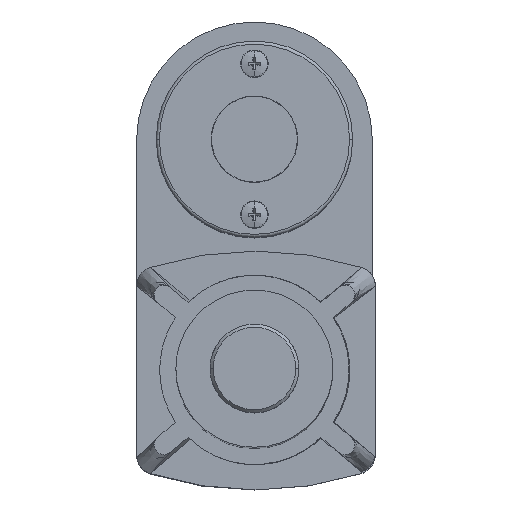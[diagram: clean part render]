
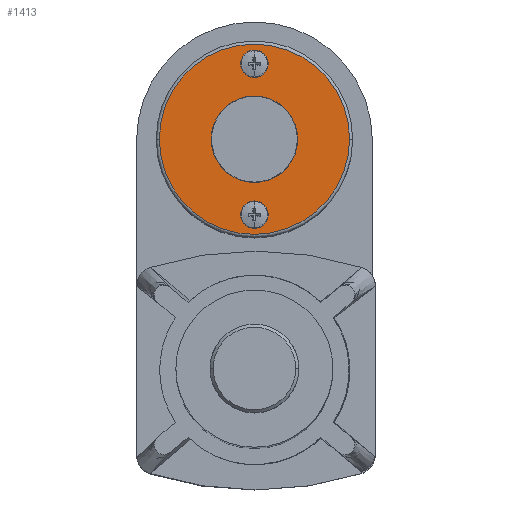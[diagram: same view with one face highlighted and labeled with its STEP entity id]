
A CAD part, top view. The second image highlights one B-rep face of the part: STEP entity #1413.
In plain terms, the highlighted planar face has unit normal (0, 0, 1).
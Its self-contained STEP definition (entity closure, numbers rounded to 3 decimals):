
#196 = DIRECTION ( 'NONE',  ( -1., 0., 0. ) ) ;
#280 = EDGE_CURVE ( 'NONE', #10394, #9945, #975, .T. ) ;
#298 = PLANE ( 'NONE',  #10204 ) ;
#565 = CARTESIAN_POINT ( 'NONE',  ( 38.608, -56.038, 406.098 ) ) ;
#771 = ORIENTED_EDGE ( 'NONE', *, *, #2543, .T. ) ;
#975 = CIRCLE ( 'NONE', #6993, 2.54 ) ;
#1129 = EDGE_CURVE ( 'NONE', #8006, #8019, #10698, .T. ) ;
#1167 = CARTESIAN_POINT ( 'NONE',  ( 41.148, -56.038, 406.098 ) ) ;
#1254 = DIRECTION ( 'NONE',  ( 0., 0., 1. ) ) ;
#1397 = DIRECTION ( 'NONE',  ( -1., 0., 0. ) ) ;
#1413 = ADVANCED_FACE ( 'NONE', ( #4592, #6042, #9624 ), #298, .T. ) ;
#1477 = AXIS2_PLACEMENT_3D ( 'NONE', #1631, #4977, #2512 ) ;
#1631 = CARTESIAN_POINT ( 'NONE',  ( 38.608, -56.038, 406.098 ) ) ;
#1796 = AXIS2_PLACEMENT_3D ( 'NONE', #3898, #1254, #9812 ) ;
#2066 = ORIENTED_EDGE ( 'NONE', *, *, #280, .F. ) ;
#2512 = DIRECTION ( 'NONE',  ( -1., 0., 0. ) ) ;
#2543 = EDGE_CURVE ( 'NONE', #9094, #5910, #3536, .T. ) ;
#2767 = EDGE_CURVE ( 'NONE', #9945, #10394, #5425, .T. ) ;
#2769 = CARTESIAN_POINT ( 'NONE',  ( 36.068, -7.238, 406.098 ) ) ;
#2828 = DIRECTION ( 'NONE',  ( 0., 0., 1. ) ) ;
#2881 = CIRCLE ( 'NONE', #9828, 2.54 ) ;
#3014 = EDGE_LOOP ( 'NONE', ( #6584, #2066 ) ) ;
#3500 = CIRCLE ( 'NONE', #1796, 30.75 ) ;
#3536 = CIRCLE ( 'NONE', #9874, 30.75 ) ;
#3728 = DIRECTION ( 'NONE',  ( -1., 0., 0. ) ) ;
#3898 = CARTESIAN_POINT ( 'NONE',  ( 38.608, -31.638, 406.098 ) ) ;
#4032 = DIRECTION ( 'NONE',  ( 0., 0., 1. ) ) ;
#4058 = ORIENTED_EDGE ( 'NONE', *, *, #8696, .T. ) ;
#4499 = CARTESIAN_POINT ( 'NONE',  ( 69.358, -31.638, 406.098 ) ) ;
#4592 = FACE_BOUND ( 'NONE', #3014, .T. ) ;
#4594 = DIRECTION ( 'NONE',  ( 0., 0., 1. ) ) ;
#4862 = DIRECTION ( 'NONE',  ( -1., 0., 0. ) ) ;
#4977 = DIRECTION ( 'NONE',  ( 0., 0., 1. ) ) ;
#5425 = CIRCLE ( 'NONE', #1477, 2.54 ) ;
#5486 = ORIENTED_EDGE ( 'NONE', *, *, #5649, .F. ) ;
#5649 = EDGE_CURVE ( 'NONE', #8019, #8006, #2881, .T. ) ;
#5907 = DIRECTION ( 'NONE',  ( 0., 0., 1. ) ) ;
#5910 = VERTEX_POINT ( 'NONE', #10474 ) ;
#6042 = FACE_BOUND ( 'NONE', #10821, .T. ) ;
#6125 = CARTESIAN_POINT ( 'NONE',  ( 36.068, -56.038, 406.098 ) ) ;
#6143 = CARTESIAN_POINT ( 'NONE',  ( 38.608, -31.638, 406.098 ) ) ;
#6522 = CARTESIAN_POINT ( 'NONE',  ( 38.608, -7.238, 406.098 ) ) ;
#6584 = ORIENTED_EDGE ( 'NONE', *, *, #2767, .F. ) ;
#6722 = CARTESIAN_POINT ( 'NONE',  ( 38.608, -31.638, 406.098 ) ) ;
#6900 = CARTESIAN_POINT ( 'NONE',  ( 41.148, -7.238, 406.098 ) ) ;
#6993 = AXIS2_PLACEMENT_3D ( 'NONE', #565, #4032, #4862 ) ;
#7397 = ORIENTED_EDGE ( 'NONE', *, *, #1129, .F. ) ;
#7608 = DIRECTION ( 'NONE',  ( -1., 0., 0. ) ) ;
#7850 = CARTESIAN_POINT ( 'NONE',  ( 38.608, -7.238, 406.098 ) ) ;
#8006 = VERTEX_POINT ( 'NONE', #2769 ) ;
#8019 = VERTEX_POINT ( 'NONE', #6900 ) ;
#8696 = EDGE_CURVE ( 'NONE', #5910, #9094, #3500, .T. ) ;
#9094 = VERTEX_POINT ( 'NONE', #4499 ) ;
#9423 = AXIS2_PLACEMENT_3D ( 'NONE', #6522, #9868, #1397 ) ;
#9624 = FACE_OUTER_BOUND ( 'NONE', #10727, .T. ) ;
#9812 = DIRECTION ( 'NONE',  ( -1., 0., 0. ) ) ;
#9828 = AXIS2_PLACEMENT_3D ( 'NONE', #7850, #4594, #196 ) ;
#9868 = DIRECTION ( 'NONE',  ( 0., 0., 1. ) ) ;
#9874 = AXIS2_PLACEMENT_3D ( 'NONE', #6722, #5907, #7608 ) ;
#9945 = VERTEX_POINT ( 'NONE', #6125 ) ;
#10204 = AXIS2_PLACEMENT_3D ( 'NONE', #6143, #2828, #3728 ) ;
#10394 = VERTEX_POINT ( 'NONE', #1167 ) ;
#10474 = CARTESIAN_POINT ( 'NONE',  ( 7.858, -31.638, 406.098 ) ) ;
#10698 = CIRCLE ( 'NONE', #9423, 2.54 ) ;
#10727 = EDGE_LOOP ( 'NONE', ( #4058, #771 ) ) ;
#10821 = EDGE_LOOP ( 'NONE', ( #7397, #5486 ) ) ;
